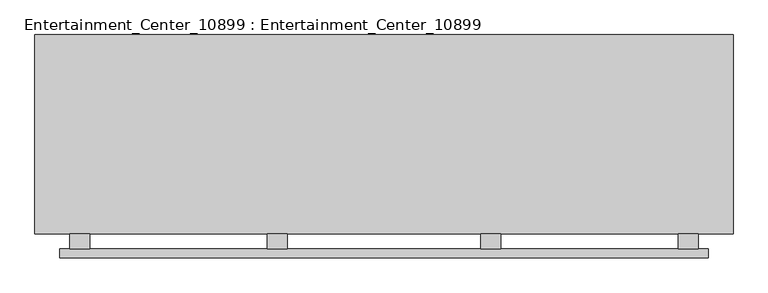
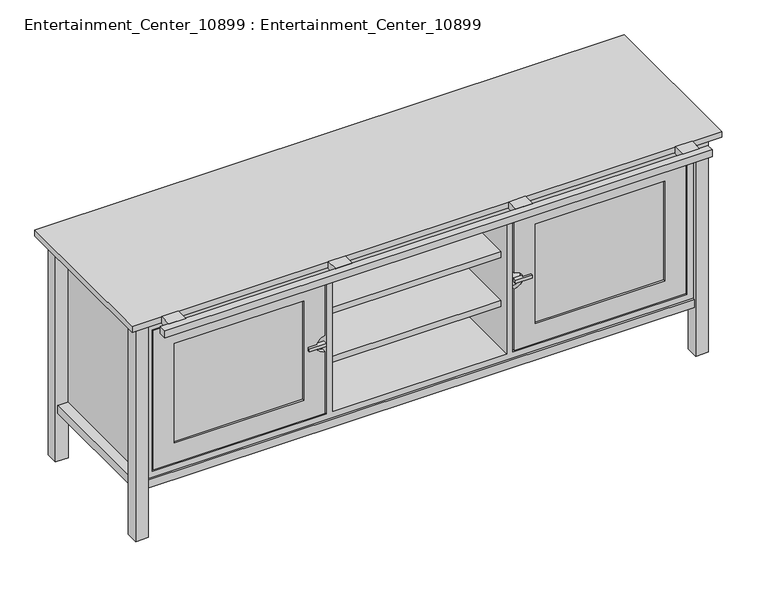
"""IFC4 building model written with IfcOpenShell, lengths in millimetres: furniture geometry, Entertainment_Center_10899 : Entertainment_Center_10899."""

from ifc_helpers import new_model, si_unit, point, frame, frame_2d, origin, origin_with_axes, place, context, project, spatial, polyline, circle_curve, trimmed, segment, composite_curve, outline, extrude, source, transform, mapped, element, save


def entertainment_center_10899_entertainment_center_10899_10a8ea42(model_context):
    return source(origin(), model_context, "Body", "SweptSolid", [
        extrude(outline(polyline([(-749.3, -292.1), (-800.1, -292.1), (-800.1, -254.0), (-749.3, -254.0), (-749.3, -292.1)])), frame((0.0, 0.0, 688.975), z_axis=(0.0, 0.0, 1.0), x_axis=(1.0, 0.0, 0.0)), (0.0, 0.0, 1.0), 22.225),
        extrude(outline(polyline([(-246.5916667, -292.1), (-297.3916667, -292.1), (-297.3916667, -254.0), (-246.5916667, -254.0), (-246.5916667, -292.1)])), frame((0.0, 0.0, 688.975), z_axis=(0.0, 0.0, 1.0), x_axis=(1.0, 0.0, 0.0)), (0.0, 0.0, 1.0), 22.225),
        extrude(outline(polyline([(800.1, -292.1), (749.3, -292.1), (749.3, -254.0), (800.1, -254.0), (800.1, -292.1)])), frame((0.0, 0.0, 688.975), z_axis=(0.0, 0.0, 1.0), x_axis=(1.0, 0.0, 0.0)), (0.0, 0.0, 1.0), 22.225),
        extrude(outline(polyline([(297.3916667, -292.1), (246.5916667, -292.1), (246.5916667, -254.0), (297.3916667, -254.0), (297.3916667, -292.1)])), frame((0.0, 0.0, 688.975), z_axis=(0.0, 0.0, 1.0), x_axis=(1.0, 0.0, 0.0)), (0.0, 0.0, 1.0), 22.225),
        extrude(outline(polyline([(825.5, -314.325), (-825.5, -314.325), (-825.5, -292.1), (825.5, -292.1), (825.5, -314.325)])), frame((0.0, 0.0, 688.975), z_axis=(0.0, 0.0, 1.0), x_axis=(1.0, 0.0, 0.0)), (0.0, 0.0, 1.0), 22.225),
        extrude(outline(polyline([(259.2916667, -190.5), (-259.2916667, -190.5), (-259.2916667, 184.15), (259.2916667, 184.15), (259.2916667, -190.5)])), frame((0.0, 0.0, 334.4333333), z_axis=(0.0, 0.0, 1.0), x_axis=(1.0, 0.0, 0.0)), (0.0, 0.0, 1.0), 19.05),
        extrude(outline(polyline([(259.2916667, -190.5), (-259.2916667, -190.5), (-259.2916667, 184.15), (259.2916667, 184.15), (259.2916667, -190.5)])), frame((0.0, 0.0, 491.0666667), z_axis=(0.0, 0.0, 1.0), x_axis=(1.0, 0.0, 0.0)), (0.0, 0.0, 1.0), 19.05),
        extrude(outline(polyline([(-285.75, -222.25), (-336.55, -222.25), (-336.55, -209.55), (-285.75, -209.55), (-285.75, -222.25)])), frame((0.0, 0.0, 417.5125), z_axis=(0.0, 0.0, 1.0), x_axis=(1.0, 0.0, 0.0)), (0.0, 0.0, 1.0), 9.525),
        extrude(outline(polyline([(336.55, -222.25), (285.75, -222.25), (285.75, -209.55), (336.55, -209.55), (336.55, -222.25)])), frame((0.0, 0.0, 417.5125), z_axis=(0.0, 0.0, 1.0), x_axis=(1.0, 0.0, 0.0)), (0.0, 0.0, 1.0), 9.525),
        extrude(outline(polyline([(-349.25, -209.55), (-739.775, -209.55), (-739.775, -203.2), (-349.25, -203.2), (-349.25, -209.55)])), frame((0.0, 0.0, 263.525), z_axis=(0.0, 0.0, 1.0), x_axis=(1.0, 0.0, 0.0)), (0.0, 0.0, 1.0), 317.5),
        extrude(outline(polyline([(739.775, -209.55), (349.25, -209.55), (349.25, -203.2), (739.775, -203.2), (739.775, -209.55)])), frame((0.0, 0.0, 263.525), z_axis=(0.0, 0.0, 1.0), x_axis=(1.0, 0.0, 0.0)), (0.0, 0.0, 1.0), 317.5),
        extrude(outline(composite_curve([segment(polyline([(644.525, -285.75), (644.525, -803.275), (200.025, -803.275), (200.025, -285.75), (396.875, -285.75)]), True, "CONTINUOUS"), segment(trimmed(circle_curve(frame_2d((422.275, -285.75)), 25.4), [point((396.875, -285.75))], [point((447.675, -285.75))], True, "CARTESIAN"), True, "CONTINUOUS"), segment(polyline([(447.675, -285.75), (644.525, -285.75)]), True, "CONTINUOUS")], self_intersect=False), holes=[polyline([(581.025, -349.25), (263.525, -349.25), (263.525, -739.775), (581.025, -739.775), (581.025, -349.25)])]), frame((0.0, -215.9, 0.0), z_axis=(0.0, 1.0, 0.0), x_axis=(0.0, 0.0, 1.0)), (0.0, 0.0, 1.0), 12.7),
        extrude(outline(composite_curve([segment(polyline([(644.525, 285.75), (447.675, 285.75)]), True, "CONTINUOUS"), segment(trimmed(circle_curve(frame_2d((422.275, 285.75)), 25.4), [point((447.675, 285.75))], [point((396.875, 285.75))], True, "CARTESIAN"), True, "CONTINUOUS"), segment(polyline([(396.875, 285.75), (200.025, 285.75), (200.025, 803.275), (644.525, 803.275), (644.525, 285.75)]), True, "CONTINUOUS")], self_intersect=False), holes=[polyline([(581.025, 349.25), (581.025, 739.775), (263.525, 739.775), (263.525, 349.25), (581.025, 349.25)])]), frame((0.0, -215.9, 0.0), z_axis=(0.0, 1.0, 0.0), x_axis=(0.0, 0.0, 1.0)), (0.0, 0.0, 1.0), 12.7),
        extrude(outline(polyline([(666.75, -825.5), (177.8, -825.5), (177.8, 825.5), (666.75, 825.5), (666.75, -825.5)]), holes=[composite_curve([segment(trimmed(circle_curve(frame_2d((250.825, 0.0)), 19.05), [point((250.825, -19.05))], [point((250.825, 19.05))], True, "CARTESIAN"), True, "CONTINUOUS"), segment(trimmed(circle_curve(frame_2d((250.825, 0.0)), 19.05), [point((250.825, 19.05))], [point((250.825, -19.05))], True, "CARTESIAN"), True, "CONTINUOUS")], self_intersect=False)]), frame((0.0, 209.55, 0.0), z_axis=(0.0, 1.0, 0.0), x_axis=(0.0, 0.0, 1.0)), (0.0, 0.0, 1.0), 6.35),
        extrude(outline(polyline([(666.75, 825.5), (666.75, -825.5), (177.8, -825.5), (177.8, 825.5), (666.75, 825.5)]), holes=[polyline([(647.7, -281.5166667), (196.85, -281.5166667), (196.85, -806.45), (647.7, -806.45), (647.7, -281.5166667)]), polyline([(196.85, 281.5166667), (647.7, 281.5166667), (647.7, 806.45), (196.85, 806.45), (196.85, 281.5166667)]), polyline([(647.7, 262.4666667), (196.85, 262.4666667), (196.85, -262.4666667), (647.7, -262.4666667), (647.7, 262.4666667)])]), frame((0.0, -215.9, 0.0), z_axis=(0.0, 1.0, 0.0), x_axis=(0.0, 0.0, 1.0)), (0.0, 0.0, 1.0), 425.45),
        extrude(outline(polyline([(857.25, 222.25), (857.25, -222.25), (-857.25, -222.25), (-857.25, 222.25), (857.25, 222.25)])), frame((0.0, 0.0, 666.75), z_axis=(0.0, 0.0, 1.0), x_axis=(1.0, 0.0, 0.0)), (0.0, 0.0, 1.0), 25.4),
        extrude(outline(polyline([(857.25, 222.25), (857.25, -222.25), (-857.25, -222.25), (-857.25, 222.25), (857.25, 222.25)])), frame((0.0, 0.0, 152.4), z_axis=(0.0, 0.0, 1.0), x_axis=(1.0, 0.0, 0.0)), (0.0, 0.0, 1.0), 25.4),
        extrude(outline(polyline([(889.0, 254.0), (889.0, -254.0), (-889.0, -254.0), (-889.0, 254.0), (889.0, 254.0)])), frame((0.0, 0.0, 692.15), z_axis=(0.0, 0.0, 1.0), x_axis=(1.0, 0.0, 0.0)), (0.0, 0.0, 1.0), 19.05),
        extrude(outline(polyline([(-825.5, 228.6), (-825.5, 190.5), (-863.6, 190.5), (-863.6, 228.6), (-825.5, 228.6)])), origin_with_axes(), (0.0, 0.0, 1.0), 692.15),
        extrude(outline(polyline([(-825.5, -228.6), (-863.6, -228.6), (-863.6, -190.5), (-825.5, -190.5), (-825.5, -228.6)])), origin_with_axes(), (0.0, 0.0, 1.0), 692.15),
        extrude(outline(polyline([(825.5, 228.6), (863.6, 228.6), (863.6, 190.5), (825.5, 190.5), (825.5, 228.6)])), origin_with_axes(), (0.0, 0.0, 1.0), 692.15),
        extrude(outline(polyline([(825.5, -228.6), (825.5, -190.5), (863.6, -190.5), (863.6, -228.6), (825.5, -228.6)])), origin_with_axes(), (0.0, 0.0, 1.0), 692.15),
    ])


if __name__ == "__main__":
    model = new_model("IFC4")
    model_context = context("Model", 3, world=origin())
    ifc_project = project(units=[si_unit("LENGTHUNIT", "METRE", prefix="MILLI")], contexts=[model_context])
    site = spatial("IfcSite", under=ifc_project)
    building = spatial("IfcBuilding", under=site)
    placement = place(None, origin())
    entertainment_center_10899_entertainment_center_10899_shape = entertainment_center_10899_entertainment_center_10899_10a8ea42(model_context)
    element("IfcFurniture", 1, ObjectType="Entertainment_Center_10899 : Entertainment_Center_10899", at=placement, inside=building, context=model_context, shape_type="MappedRepresentation", body=[
        mapped(entertainment_center_10899_entertainment_center_10899_shape, transform((0.0, 0.0, 0.0), x_axis=(1.0, 0.0, 0.0), y_axis=(0.0, 1.0, 0.0), z_axis=(0.0, 0.0, 1.0))),
    ])
    save(model, "model.ifc")
